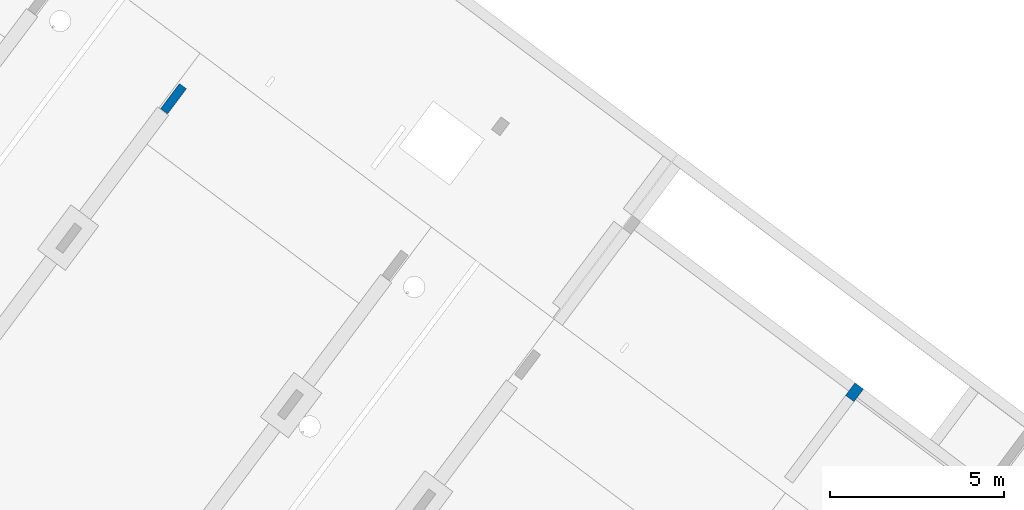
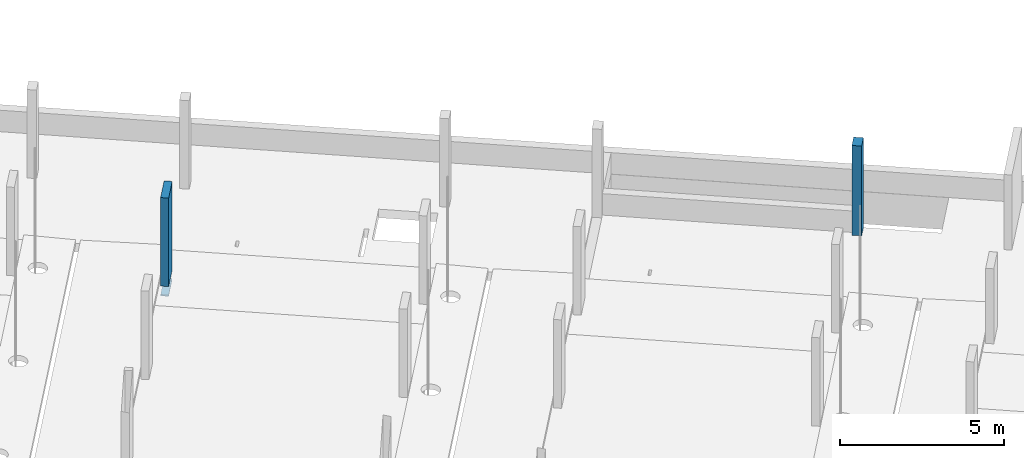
# One storey, part 15 of 24: 2 columns.
"""IFC2X3 building model written with IfcOpenShell, lengths in metres."""

from ifc_helpers import new_model, entity, si_unit, converted_unit, derived_unit, direction, frame, origin, origin_2d_with_axis, place, context, subcontext, project, spatial, rectangle, extrude, source, transform, mapped, material, type_object, type_shapes, element, save


model = new_model("IFC2X3")

# Units and contexts
model_context = context("Model", 3, precision=1e-05, world=origin(), true_north=direction((6.123031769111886e-17, 1.0)))
body_context = subcontext(model_context, "Body", "Model", "MODEL_VIEW")
ifc_project = project(units=[si_unit("LENGTHUNIT", "METRE"), si_unit("AREAUNIT", "SQUARE_METRE"), si_unit("VOLUMEUNIT", "CUBIC_METRE"), converted_unit("PLANEANGLEUNIT", "DEGREE", entity("IfcRatioMeasure", 0.017453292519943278), si_unit("PLANEANGLEUNIT", "RADIAN"), dimensions=[0, 0, 0, 0, 0, 0, 0]), si_unit("MASSUNIT", "GRAM", prefix="KILO"), derived_unit("MASSDENSITYUNIT", [(si_unit("MASSUNIT", "GRAM", prefix="KILO"), 1), (si_unit("LENGTHUNIT", "METRE"), -3)]), derived_unit("IONCONCENTRATIONUNIT", [(si_unit("MASSUNIT", "GRAM", prefix="KILO"), 1), (si_unit("LENGTHUNIT", "METRE"), -3)]), derived_unit("MOMENTOFINERTIAUNIT", [(si_unit("LENGTHUNIT", "METRE"), 4)]), si_unit("TIMEUNIT", "SECOND"), si_unit("FREQUENCYUNIT", "HERTZ"), si_unit("THERMODYNAMICTEMPERATUREUNIT", "DEGREE_CELSIUS"), derived_unit("THERMALTRANSMITTANCEUNIT", [(si_unit("MASSUNIT", "GRAM", prefix="KILO"), 1), (si_unit("THERMODYNAMICTEMPERATUREUNIT", "KELVIN"), -1), (si_unit("TIMEUNIT", "SECOND"), -3)]), derived_unit("THERMALCONDUCTANCEUNIT", [(si_unit("MASSUNIT", "GRAM", prefix="KILO"), 1), (si_unit("THERMODYNAMICTEMPERATUREUNIT", "KELVIN"), -1), (si_unit("TIMEUNIT", "SECOND"), -3), (si_unit("LENGTHUNIT", "METRE"), 1)]), derived_unit("VOLUMETRICFLOWRATEUNIT", [(si_unit("LENGTHUNIT", "METRE"), 3), (si_unit("TIMEUNIT", "SECOND"), -1)]), derived_unit("MASSFLOWRATEUNIT", [(si_unit("MASSUNIT", "GRAM", prefix="KILO"), 1), (si_unit("TIMEUNIT", "SECOND"), -1)]), derived_unit("ROTATIONALFREQUENCYUNIT", [(si_unit("TIMEUNIT", "SECOND"), -1)]), si_unit("ELECTRICCURRENTUNIT", "AMPERE"), si_unit("ELECTRICVOLTAGEUNIT", "VOLT"), si_unit("POWERUNIT", "WATT"), si_unit("FORCEUNIT", "NEWTON", prefix="KILO"), si_unit("ILLUMINANCEUNIT", "LUX"), si_unit("LUMINOUSFLUXUNIT", "LUMEN"), si_unit("LUMINOUSINTENSITYUNIT", "CANDELA"), derived_unit("USERDEFINED", [(si_unit("MASSUNIT", "GRAM", prefix="KILO"), -1), (si_unit("LENGTHUNIT", "METRE"), -2), (si_unit("TIMEUNIT", "SECOND"), 3), (si_unit("LUMINOUSFLUXUNIT", "LUMEN"), 1)]), derived_unit("USERDEFINED", [(si_unit("MASSUNIT", "GRAM", prefix="KILO"), 1), (si_unit("TIMEUNIT", "SECOND"), -3), (si_unit("LENGTHUNIT", "METRE"), 3), (si_unit("ELECTRICCURRENTUNIT", "AMPERE"), -2)]), derived_unit("SOUNDPOWERUNIT", [(si_unit("MASSUNIT", "GRAM", prefix="KILO"), 1), (si_unit("TIMEUNIT", "SECOND"), -3), (si_unit("LENGTHUNIT", "METRE"), 2)]), derived_unit("SOUNDPRESSUREUNIT", [(si_unit("MASSUNIT", "GRAM", prefix="KILO"), 1), (si_unit("LENGTHUNIT", "METRE"), -1), (si_unit("TIMEUNIT", "SECOND"), -2)]), derived_unit("LINEARVELOCITYUNIT", [(si_unit("LENGTHUNIT", "METRE"), 1), (si_unit("TIMEUNIT", "SECOND"), -1)]), si_unit("PRESSUREUNIT", "PASCAL"), derived_unit("USERDEFINED", [(si_unit("MASSUNIT", "GRAM", prefix="KILO"), 1), (si_unit("LENGTHUNIT", "METRE"), -2), (si_unit("TIMEUNIT", "SECOND"), -2)]), derived_unit("LINEARFORCEUNIT", [(si_unit("MASSUNIT", "GRAM", prefix="KILO"), 1), (si_unit("TIMEUNIT", "SECOND"), -2)]), derived_unit("PLANARFORCEUNIT", [(si_unit("MASSUNIT", "GRAM", prefix="KILO"), 1), (si_unit("LENGTHUNIT", "METRE"), -1), (si_unit("TIMEUNIT", "SECOND"), -2)]), derived_unit("SPECIFICHEATCAPACITYUNIT", [(si_unit("THERMODYNAMICTEMPERATUREUNIT", "KELVIN"), -1), (si_unit("LENGTHUNIT", "METRE"), 2), (si_unit("TIMEUNIT", "SECOND"), -2)]), derived_unit("HEATINGVALUEUNIT", [(si_unit("LENGTHUNIT", "METRE"), 2), (si_unit("TIMEUNIT", "SECOND"), -2)]), derived_unit("VAPORPERMEABILITYUNIT", [(si_unit("LENGTHUNIT", "METRE"), -1), (si_unit("TIMEUNIT", "SECOND"), 1)]), derived_unit("DYNAMICVISCOSITYUNIT", [(si_unit("MASSUNIT", "GRAM", prefix="KILO"), 1), (si_unit("TIMEUNIT", "SECOND"), -1), (si_unit("LENGTHUNIT", "METRE"), -1)]), derived_unit("THERMALEXPANSIONCOEFFICIENTUNIT", [(si_unit("THERMODYNAMICTEMPERATUREUNIT", "KELVIN"), -1)]), derived_unit("MODULUSOFELASTICITYUNIT", [(si_unit("MASSUNIT", "GRAM", prefix="KILO"), 1), (si_unit("LENGTHUNIT", "METRE"), -1), (si_unit("TIMEUNIT", "SECOND"), -2)]), derived_unit("ISOTHERMALMOISTURECAPACITYUNIT", [(si_unit("LENGTHUNIT", "METRE"), 3), (si_unit("MASSUNIT", "GRAM", prefix="KILO"), -1)]), derived_unit("MOISTUREDIFFUSIVITYUNIT", [(si_unit("TIMEUNIT", "SECOND"), -1), (si_unit("LENGTHUNIT", "METRE"), 2)])], contexts=[model_context])

# Site, building, storey
site_placement = place(None, origin())
site = spatial("IfcSite", under=ifc_project, at=site_placement, Name="Default", CompositionType="ELEMENT")
building_placement = place(site_placement, frame((0.0, 0.0, 235.0), z_axis=(0.0, 0.0, 1.0), x_axis=(-0.7996477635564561, 0.6004693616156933, 0.0)))
building = spatial("IfcBuilding", under=site, at=building_placement, CompositionType="ELEMENT")
storey_placement = place(building_placement, origin())
storey = spatial("IfcBuildingStorey", under=building, at=storey_placement, Name="P0- Escola", CompositionType="ELEMENT", Elevation=0.0)

# Columns
ifc_material = material(Name="_Formigó- T1- STR")
column_type_1 = type_object("IfcColumnType", Name="STR- P- Formigó- Rectangular- T1:30x45cm", PredefinedType="COLUMN", material=ifc_material)
shared_shape_1 = source(origin(), body_context, "Body", "SweptSolid", [
    extrude(rectangle(XDim=0.4500000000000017, YDim=0.3000000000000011, at=origin_2d_with_axis()), frame((28.495147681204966, -39.91519175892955, -0.2), z_axis=(0.0, 0.0, 1.0), x_axis=(0.0, -1.0, 0.0)), (0.0, 0.0, 1.0), 3.3500000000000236),
])
type_shapes(column_type_1, [shared_shape_1])
column_1_placement = place(storey_placement, origin())
element("IfcColumn", 1, at=column_1_placement, inside=storey, type_object=column_type_1, material=ifc_material, Name="STR- P- Formigó- Rectangular- T1:30x45cm", ObjectType="STR- P- Formigó- Rectangular- T1:30x45cm", context=body_context, shape_type="MappedRepresentation", body=[
    mapped(shared_shape_1, transform((0.0, 0.0, 0.0), scale=1.0)),
])
column_type_2 = type_object("IfcColumnType", Name="STR- P- Formigó- Rectangular- T1:25x90cm", PredefinedType="COLUMN", material=ifc_material)
shared_shape_2 = source(origin(), body_context, "Body", "SweptSolid", [
    extrude(rectangle(XDim=0.899999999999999, YDim=0.25000000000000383, at=origin_2d_with_axis()), frame((49.17014768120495, -34.91519175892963, -0.57), z_axis=(0.0, 0.0, 1.0), x_axis=(0.0, -1.0, 0.0)), (0.0, 0.0, 1.0), 0.05000000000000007),
    extrude(rectangle(XDim=0.899999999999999, YDim=0.25000000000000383, at=origin_2d_with_axis()), frame((49.17014768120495, -34.91519175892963, -0.2), z_axis=(0.0, 0.0, 1.0), x_axis=(0.0, -1.0, 0.0)), (0.0, 0.0, 1.0), 3.3000000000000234),
])
type_shapes(column_type_2, [shared_shape_2])
column_2_placement = place(storey_placement, origin())
element("IfcColumn", 2, at=column_2_placement, inside=storey, type_object=column_type_2, material=ifc_material, Name="STR- P- Formigó- Rectangular- T1:25x90cm", ObjectType="STR- P- Formigó- Rectangular- T1:25x90cm", context=body_context, shape_type="MappedRepresentation", body=[
    mapped(shared_shape_2, transform((0.0, 0.0, 0.0), scale=1.0)),
])

save(model, "model.ifc")
